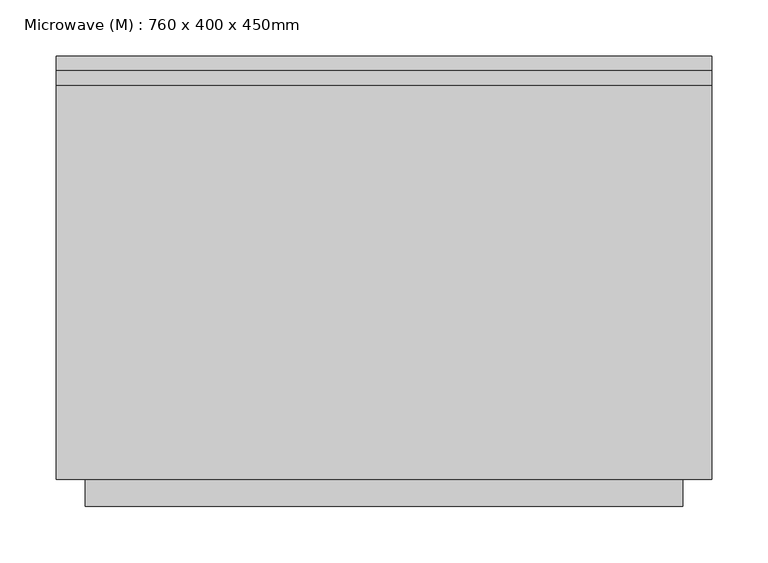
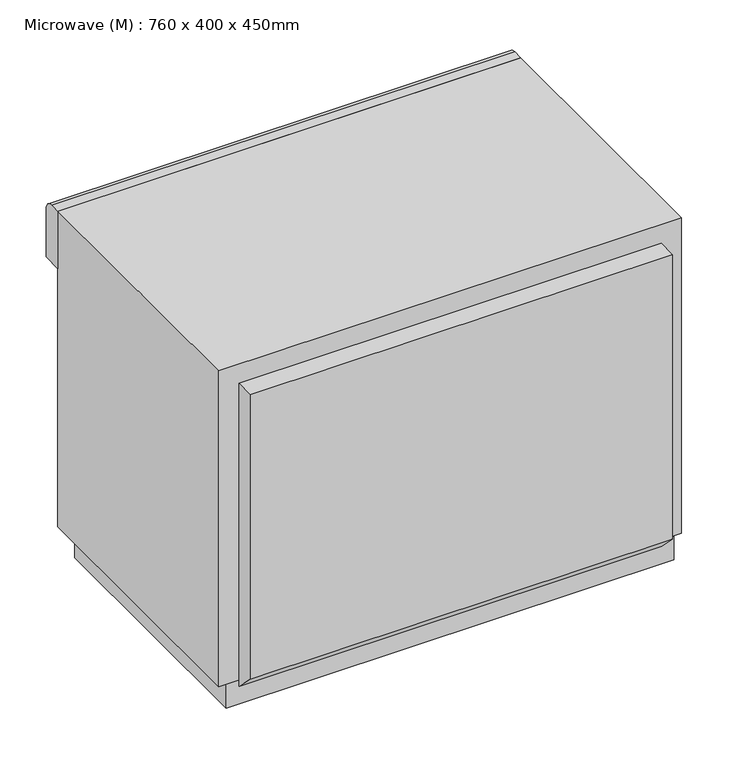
"""IFC4 building model written with IfcOpenShell, lengths in millimetres: proxy geometry, Microwave (M) : 760 x 400 x 450mm."""

from ifc_helpers import new_model, si_unit, point, frame, frame_2d, origin, place, context, project, spatial, polyline, circle_curve, trimmed, segment, composite_curve, outline, extrude, faceted_brep, source, transform, mapped, element, save


def microwave_m_760_x_400_x_450mm_7e184369(model_context):
    return source(origin(), model_context, "Body", "SolidModel", [
        extrude(outline(polyline([(678.4897523, 546.7305058), (678.4897523, 540.3805058), (311.8928773, 540.3805058), (311.8928773, 546.7305058), (678.4897523, 546.7305058)])), frame((0.0, 0.0, 1022.35), z_axis=(0.0, 0.0, 1.0), x_axis=(1.0, 0.0, 0.0)), (0.0, 0.0, 1.0), 176.95),
        extrude(outline(composite_curve([segment(trimmed(circle_curve(frame_2d((540.3805058, 1351.7)), 12.7), [point((540.3805058, 1364.4))], [point((553.0805058, 1351.7))], False, "CARTESIAN"), True, "CONTINUOUS"), segment(polyline([(553.0805058, 1351.7), (553.0805058, 1288.2), (527.6805058, 1288.2), (527.6805058, 1364.4), (540.3805058, 1364.4)]), True, "CONTINUOUS")], self_intersect=False)), frame((210.2928773, 0.0, 0.0), z_axis=(1.0, 0.0, 0.0), x_axis=(0.0, 1.0, 0.0)), (0.0, 0.0, 1.0), 580.0),
        extrude(outline(polyline([(154.2441495, 1339.0), (179.6441495, 1339.0), (179.6441495, 936.546551), (154.2441495, 961.946551), (154.2441495, 1339.0)])), frame((235.6928773, 0.0, 0.0), z_axis=(1.0, 0.0, 0.0), x_axis=(0.0, 1.0, 0.0)), (0.0, 0.0, 1.0), 529.2),
        faceted_brep([(790.2928773, 178.4805058, 1364.4), (790.2928773, 527.6805058, 1364.4), (210.2928773, 527.6805058, 1364.4), (210.2928773, 178.4805058, 1364.4), (790.2928773, 178.4805058, 946.15), (210.2928773, 178.4805058, 946.15), (210.2928773, 527.6805058, 946.15), (790.2928773, 527.6805058, 946.15), (733.5397523, 527.6805058, 1271.0014904), (267.0460023, 527.6805058, 1271.0014904), (267.0460023, 527.6805058, 1020.1764904), (733.5397523, 527.6805058, 1020.1764904), (733.5397523, 197.4805058, 1271.0014904), (733.5397523, 197.4805058, 1020.1764904), (267.0460023, 197.4805058, 1020.1764904), (267.0460023, 197.4805058, 1271.0014904)], [[[0, 1, 2, 3]], [[4, 5, 6, 7]], [[3, 5, 4, 0]], [[2, 6, 5, 3]], [[1, 7, 6, 2], [8, 9, 10, 11]], [[0, 4, 7, 1]], [[12, 13, 14, 15]], [[12, 8, 11, 13]], [[13, 11, 10, 14]], [[14, 10, 9, 15]], [[15, 9, 8, 12]]]),
        extrude(outline(polyline([(780.7678773, 178.4805058), (219.8178773, 178.4805058), (219.8178773, 507.0430058), (780.7678773, 507.0430058), (780.7678773, 178.4805058)])), frame((0.0, 0.0, 914.4), z_axis=(0.0, 0.0, 1.0), x_axis=(1.0, 0.0, 0.0)), (0.0, 0.0, 1.0), 31.75),
    ])


if __name__ == "__main__":
    model = new_model("IFC4")
    model_context = context("Model", 3, world=origin())
    ifc_project = project(units=[si_unit("LENGTHUNIT", "METRE", prefix="MILLI")], contexts=[model_context])
    site = spatial("IfcSite", under=ifc_project)
    building = spatial("IfcBuilding", under=site)
    placement = place(None, origin())
    microwave_m_760_x_400_x_450mm_shape = microwave_m_760_x_400_x_450mm_7e184369(model_context)
    element("IfcBuildingElementProxy", 1, Name="Microwave (M) : 760 x 400 x 450mm", ObjectType="Microwave (M) : 760 x 400 x 450mm", at=placement, inside=building, context=model_context, shape_type="MappedRepresentation", body=[
        mapped(microwave_m_760_x_400_x_450mm_shape, transform((0.0, 0.0, 0.0), x_axis=(1.0, 0.0, 0.0), y_axis=(0.0, 1.0, 0.0), z_axis=(0.0, 0.0, 1.0))),
    ])
    save(model, "model.ifc")
